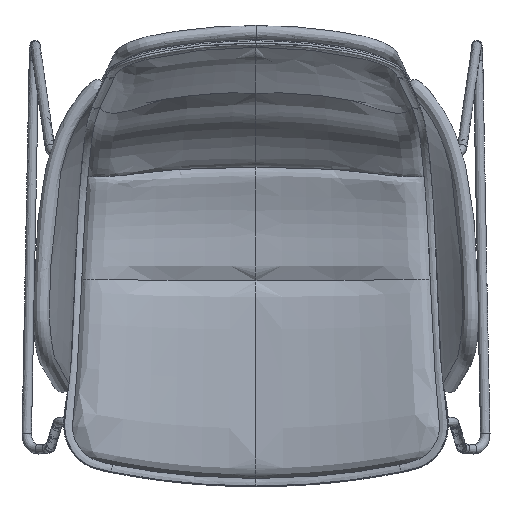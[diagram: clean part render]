
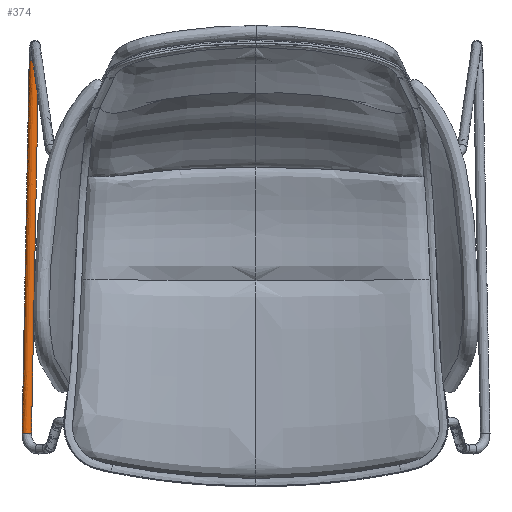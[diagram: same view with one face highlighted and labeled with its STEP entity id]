
A CAD part, top view. The second image highlights one B-rep face of the part: STEP entity #374.
In plain terms, the highlighted free-form (B-spline) face has degree [2, 3] with [9, 4] control points.
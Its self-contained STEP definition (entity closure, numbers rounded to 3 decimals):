
#374=ADVANCED_FACE('',(#480),#1509,.T.);
#480=FACE_OUTER_BOUND('',#586,.T.);
#586=EDGE_LOOP('',(#743,#744,#745,#746));
#743=ORIENTED_EDGE('',*,*,#1136,.T.);
#744=ORIENTED_EDGE('',*,*,#1137,.T.);
#745=ORIENTED_EDGE('',*,*,#1138,.F.);
#746=ORIENTED_EDGE('',*,*,#1137,.F.);
#1136=EDGE_CURVE('',#1380,#1380,#1352,.T.);
#1137=EDGE_CURVE('',#1380,#1381,#1353,.T.);
#1138=EDGE_CURVE('',#1381,#1381,#1354,.T.);
#1352=(
BOUNDED_CURVE()
B_SPLINE_CURVE(2,(#2953,#2954,#2955,#2956,#2957,#2958,#2959,#2960,#2961),
 .UNSPECIFIED.,.T.,.F.)
B_SPLINE_CURVE_WITH_KNOTS((3,2,2,2,3),(0.,9.425,18.85,
28.274,37.699),.UNSPECIFIED.)
CURVE()
GEOMETRIC_REPRESENTATION_ITEM()
RATIONAL_B_SPLINE_CURVE((1.,0.707,1.,0.707,1.,0.707,
1.,0.707,1.))
REPRESENTATION_ITEM('')
);
#1353=(
BOUNDED_CURVE()
B_SPLINE_CURVE(3,(#2962,#2963,#2964,#2965),.UNSPECIFIED.,.F.,.F.)
B_SPLINE_CURVE_WITH_KNOTS((4,4),(0.,471.014),.UNSPECIFIED.)
CURVE()
GEOMETRIC_REPRESENTATION_ITEM()
RATIONAL_B_SPLINE_CURVE((1.,1.,1.,1.))
REPRESENTATION_ITEM('')
);
#1354=(
BOUNDED_CURVE()
B_SPLINE_CURVE(2,(#2966,#2967,#2968,#2969,#2970,#2971,#2972,#2973,#2974),
 .UNSPECIFIED.,.T.,.F.)
B_SPLINE_CURVE_WITH_KNOTS((3,2,2,2,3),(0.,9.425,18.85,
28.274,37.699),.UNSPECIFIED.)
CURVE()
GEOMETRIC_REPRESENTATION_ITEM()
RATIONAL_B_SPLINE_CURVE((1.,0.707,1.,0.707,1.,0.707,
1.,0.707,1.))
REPRESENTATION_ITEM('')
);
#1380=VERTEX_POINT('',#2713);
#1381=VERTEX_POINT('',#2714);
#1509=(
BOUNDED_SURFACE()
B_SPLINE_SURFACE(2,3,((#2453,#2454,#2455,#2456),(#2457,#2458,#2459,#2460),
(#2461,#2462,#2463,#2464),(#2465,#2466,#2467,#2468),(#2469,#2470,#2471,
#2472),(#2473,#2474,#2475,#2476),(#2477,#2478,#2479,#2480),(#2481,#2482,
#2483,#2484),(#2485,#2486,#2487,#2488)),.UNSPECIFIED.,.T.,.F.,.F.)
B_SPLINE_SURFACE_WITH_KNOTS((3,2,2,2,3),(4,4),(0.,9.425,18.85,
28.274,37.699),(0.,471.014),.UNSPECIFIED.)
GEOMETRIC_REPRESENTATION_ITEM()
RATIONAL_B_SPLINE_SURFACE(((1.,1.,1.,1.),(0.707,0.707,
0.707,0.707),(1.,1.,1.,1.),(0.707,0.707,
0.707,0.707),(1.,1.,1.,1.),(0.707,0.707,
0.707,0.707),(1.,1.,1.,1.),(0.707,0.707,
0.707,0.707),(1.,1.,1.,1.)))
REPRESENTATION_ITEM('')
SURFACE()
);
#2453=CARTESIAN_POINT('',(-285.513,-190.542,12.404));
#2454=CARTESIAN_POINT('',(-282.494,-33.566,12.404));
#2455=CARTESIAN_POINT('',(-279.475,123.41,12.404));
#2456=CARTESIAN_POINT('',(-276.457,280.385,12.404));
#2457=CARTESIAN_POINT('',(-281.109,-190.627,8.33));
#2458=CARTESIAN_POINT('',(-278.09,-33.651,8.33));
#2459=CARTESIAN_POINT('',(-275.072,123.325,8.33));
#2460=CARTESIAN_POINT('',(-272.053,280.301,8.33));
#2461=CARTESIAN_POINT('',(-285.183,-190.548,3.926));
#2462=CARTESIAN_POINT('',(-282.164,-33.573,3.926));
#2463=CARTESIAN_POINT('',(-279.145,123.403,3.926));
#2464=CARTESIAN_POINT('',(-276.127,280.379,3.926));
#2465=CARTESIAN_POINT('',(-289.256,-190.47,-0.479));
#2466=CARTESIAN_POINT('',(-286.238,-33.494,-0.479));
#2467=CARTESIAN_POINT('',(-283.219,123.482,-0.479));
#2468=CARTESIAN_POINT('',(-280.2,280.457,-0.479));
#2469=CARTESIAN_POINT('',(-293.66,-190.385,3.596));
#2470=CARTESIAN_POINT('',(-290.641,-33.41,3.596));
#2471=CARTESIAN_POINT('',(-287.623,123.566,3.596));
#2472=CARTESIAN_POINT('',(-284.604,280.542,3.596));
#2473=CARTESIAN_POINT('',(-298.064,-190.301,7.67));
#2474=CARTESIAN_POINT('',(-295.045,-33.325,7.67));
#2475=CARTESIAN_POINT('',(-292.026,123.651,7.67));
#2476=CARTESIAN_POINT('',(-289.008,280.627,7.67));
#2477=CARTESIAN_POINT('',(-293.99,-190.379,12.074));
#2478=CARTESIAN_POINT('',(-290.971,-33.403,12.074));
#2479=CARTESIAN_POINT('',(-287.953,123.573,12.074));
#2480=CARTESIAN_POINT('',(-284.934,280.548,12.074));
#2481=CARTESIAN_POINT('',(-289.917,-190.457,16.479));
#2482=CARTESIAN_POINT('',(-286.898,-33.482,16.479));
#2483=CARTESIAN_POINT('',(-283.879,123.494,16.479));
#2484=CARTESIAN_POINT('',(-280.86,280.47,16.479));
#2485=CARTESIAN_POINT('',(-285.513,-190.542,12.404));
#2486=CARTESIAN_POINT('',(-282.494,-33.566,12.404));
#2487=CARTESIAN_POINT('',(-279.475,123.41,12.404));
#2488=CARTESIAN_POINT('',(-276.457,280.385,12.404));
#2713=CARTESIAN_POINT('',(-285.513,-190.542,12.404));
#2714=CARTESIAN_POINT('',(-276.457,280.385,12.404));
#2953=CARTESIAN_POINT('',(-285.513,-190.542,12.404));
#2954=CARTESIAN_POINT('',(-281.109,-190.627,8.33));
#2955=CARTESIAN_POINT('',(-285.183,-190.548,3.926));
#2956=CARTESIAN_POINT('',(-289.256,-190.47,-0.479));
#2957=CARTESIAN_POINT('',(-293.66,-190.385,3.596));
#2958=CARTESIAN_POINT('',(-298.064,-190.301,7.67));
#2959=CARTESIAN_POINT('',(-293.99,-190.379,12.074));
#2960=CARTESIAN_POINT('',(-289.917,-190.457,16.479));
#2961=CARTESIAN_POINT('',(-285.513,-190.542,12.404));
#2962=CARTESIAN_POINT('',(-285.513,-190.542,12.404));
#2963=CARTESIAN_POINT('',(-282.494,-33.566,12.404));
#2964=CARTESIAN_POINT('',(-279.475,123.41,12.404));
#2965=CARTESIAN_POINT('',(-276.457,280.385,12.404));
#2966=CARTESIAN_POINT('',(-276.457,280.385,12.404));
#2967=CARTESIAN_POINT('',(-272.053,280.301,8.33));
#2968=CARTESIAN_POINT('',(-276.127,280.379,3.926));
#2969=CARTESIAN_POINT('',(-280.2,280.457,-0.479));
#2970=CARTESIAN_POINT('',(-284.604,280.542,3.596));
#2971=CARTESIAN_POINT('',(-289.008,280.627,7.67));
#2972=CARTESIAN_POINT('',(-284.934,280.548,12.074));
#2973=CARTESIAN_POINT('',(-280.86,280.47,16.479));
#2974=CARTESIAN_POINT('',(-276.457,280.385,12.404));
